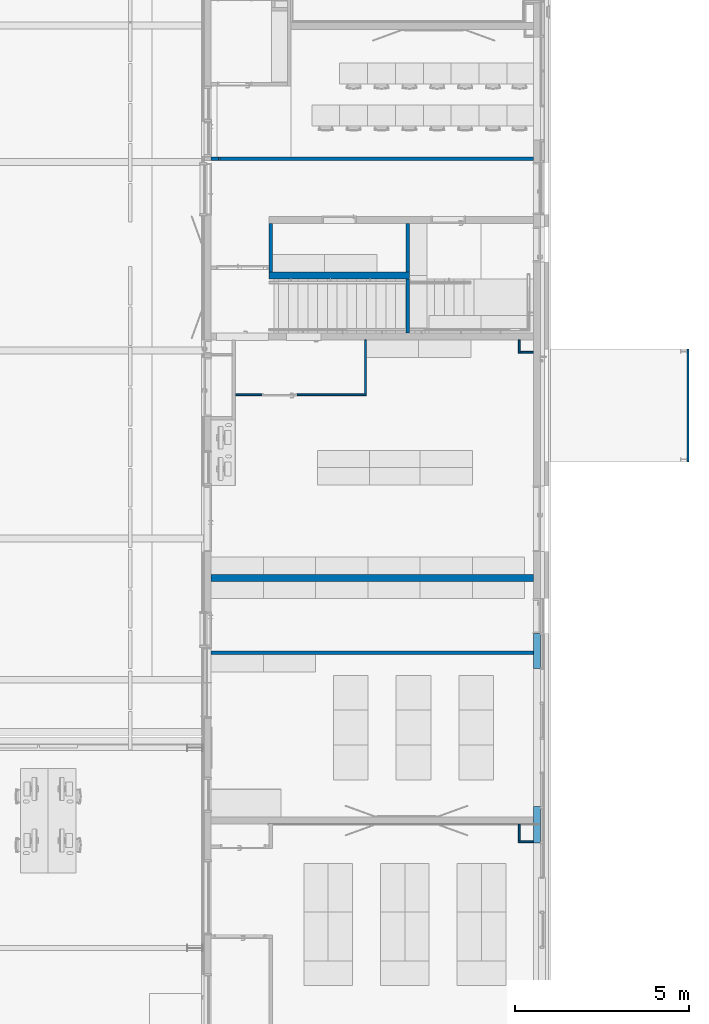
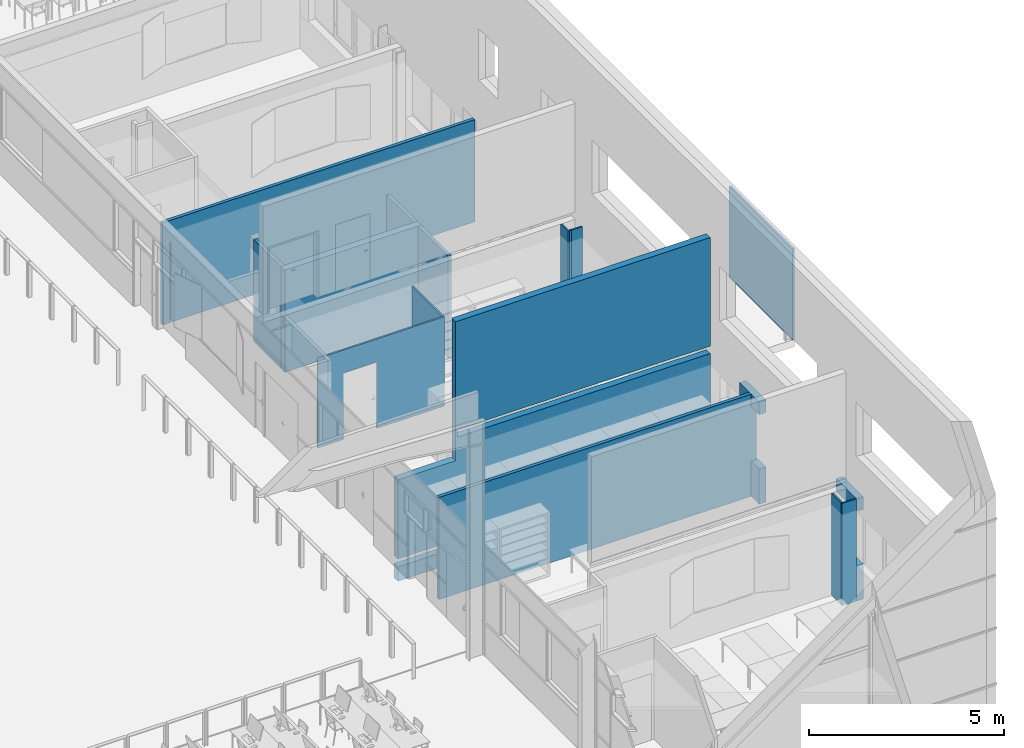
# One storey, part 63 of 137: 17 walls, 8 openings.
"""IFC2X3 building model written with IfcOpenShell, lengths in centimetres."""

from ifc_helpers import new_model, entity, si_unit, converted_unit, derived_unit, direction, frame, frame_2d, origin, origin_2d_with_axis, place, context, subcontext, project, spatial, polyline, rectangle, outline, extrude, clip, halfspace, bounded_halfspace, material, layer, layer_set, layer_usage, type_object, element, save


model = new_model("IFC2X3")

# Units and contexts
model_context = context("Model", 3, precision=0.001, world=origin(), true_north=direction((6.12303176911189e-17, 1.0)))
body_context = subcontext(model_context, "Body", "Model", "MODEL_VIEW")
ifc_project = project(units=[si_unit("LENGTHUNIT", "METRE", prefix="CENTI"), si_unit("AREAUNIT", "SQUARE_METRE"), si_unit("VOLUMEUNIT", "CUBIC_METRE"), converted_unit("PLANEANGLEUNIT", "DEGREE", entity("IfcRatioMeasure", 0.0174532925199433), si_unit("PLANEANGLEUNIT", "RADIAN"), dimensions=[0, 0, 0, 0, 0, 0, 0]), si_unit("MASSUNIT", "GRAM", prefix="KILO"), si_unit("TIMEUNIT", "SECOND"), si_unit("FREQUENCYUNIT", "HERTZ"), si_unit("THERMODYNAMICTEMPERATUREUNIT", "DEGREE_CELSIUS"), derived_unit("THERMALTRANSMITTANCEUNIT", [(si_unit("MASSUNIT", "GRAM", prefix="KILO"), 1), (si_unit("THERMODYNAMICTEMPERATUREUNIT", "KELVIN"), -1), (si_unit("TIMEUNIT", "SECOND"), -3)]), derived_unit("VOLUMETRICFLOWRATEUNIT", [(si_unit("LENGTHUNIT", "METRE"), 3), (si_unit("TIMEUNIT", "SECOND"), -1)]), si_unit("ELECTRICCURRENTUNIT", "AMPERE"), si_unit("ELECTRICVOLTAGEUNIT", "VOLT"), si_unit("POWERUNIT", "WATT"), si_unit("FORCEUNIT", "NEWTON", prefix="KILO"), si_unit("ILLUMINANCEUNIT", "LUX"), si_unit("LUMINOUSFLUXUNIT", "LUMEN"), si_unit("LUMINOUSINTENSITYUNIT", "CANDELA"), derived_unit("USERDEFINED", [(si_unit("MASSUNIT", "GRAM", prefix="KILO"), -1), (si_unit("LENGTHUNIT", "METRE"), -2), (si_unit("TIMEUNIT", "SECOND"), 3), (si_unit("LUMINOUSFLUXUNIT", "LUMEN"), 1)]), derived_unit("LINEARVELOCITYUNIT", [(si_unit("LENGTHUNIT", "METRE"), 1), (si_unit("TIMEUNIT", "SECOND"), -1)]), si_unit("PRESSUREUNIT", "PASCAL"), derived_unit("USERDEFINED", [(si_unit("LENGTHUNIT", "METRE"), -2), (si_unit("MASSUNIT", "GRAM", prefix="KILO"), 1), (si_unit("TIMEUNIT", "SECOND"), -2)])], contexts=[model_context])

# Site, building, storey
site_placement = place(None, frame((8.62739174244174, -249.285249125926, 0.0)))
site = spatial("IfcSite", under=ifc_project, at=site_placement, Name="Default", CompositionType="ELEMENT")
building_placement = place(site_placement, origin())
building = spatial("IfcBuilding", under=site, at=building_placement, CompositionType="ELEMENT")
storey_placement = place(building_placement, origin())
storey = spatial("IfcBuildingStorey", under=building, at=storey_placement, Name="RDC", CompositionType="ELEMENT", Elevation=-8.82465566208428e-11)

# Wall, opening
ifc_material_1 = material(Name="Plâtre")
ifc_layer_1 = layer(ifc_material_1, 10.0)
ifc_layer_set_1 = layer_set([ifc_layer_1], Name="Mur de base:PLA 10")
ifc_layer_usage_1 = layer_usage(ifc_layer_set_1, "AXIS2", "NEGATIVE", 5.0)
wall_type_1 = type_object("IfcWallType", Name="Mur de base:PLA 10", PredefinedType="STANDARD", material=ifc_layer_set_1)
wall_1_placement = place(storey_placement, frame((3053.90482779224, 5202.98020813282, 0.0)))
wall_1 = element("IfcWallStandardCase", 1, at=wall_1_placement, inside=storey, type_object=wall_type_1, material=ifc_layer_usage_1, Name="Mur de base:PLA 10", ObjectType="Mur de base:PLA 10", context=body_context, shape_type="Clipping", body=[
    clip(extrude(rectangle(XDim=925.000000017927, YDim=9.99999999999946, at=frame_2d((462.500000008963, -3.99680288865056e-14), x_axis=(-1.0, 0.0))), origin(), (0.0, 0.0, 1.0), 320.000000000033), bounded_halfspace(frame((0.0, -5.0, 320.0), z_axis=(0.0, 0.0, -1.0), x_axis=(0.0, 1.0, 0.0)), True, frame((0.0, -5.0, 320.0)), polyline([(0.0, 0.0), (925.0, 0.0), (925.0, 10.0), (2.06182448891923e-09, 10.0), (0.0, 0.0)]))),
])
opening_1_placement = place(wall_1_placement, origin())
element("IfcOpeningElement", 2, at=opening_1_placement, cuts=wall_1, Name="Mur de base:PLA 10", ObjectType="Opening", context=body_context, shape_type="SweptSolid", body=[
    extrude(rectangle(XDim=243.84, YDim=3.99999999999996, at=frame_2d((-1.4210854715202e-14, 0.0), x_axis=(1.0, 0.0))), frame((23.5000000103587, -5.0, 130.0), z_axis=(0.0, 1.0, 0.0), x_axis=(0.0, 0.0, -1.0)), (0.0, 0.0, 1.0), 9.99999999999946),
])

# Wall
ifc_layer_usage_2 = layer_usage(ifc_layer_set_1, "AXIS2", "NEGATIVE", 5.0)
wall_2_placement = place(storey_placement, frame((3618.90482771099, 4877.98020814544, 0.0), z_axis=(0.0, 0.0, 1.0), x_axis=(0.0, 1.0, 0.0)))
element("IfcWallStandardCase", 3, at=wall_2_placement, inside=storey, type_object=wall_type_1, material=ifc_layer_usage_2, Name="Mur de base:PLA 10", ObjectType="Mur de base:PLA 10", context=body_context, shape_type="Clipping", body=[
    clip(extrude(rectangle(XDim=140.0, YDim=10.0000000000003, at=frame_2d((70.0000000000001, 0.0), x_axis=(-1.0, 0.0))), origin(), (0.0, 0.0, 1.0), 320.000000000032), bounded_halfspace(frame((0.0, -5.0, 320.0), z_axis=(0.0, 0.0, -1.0), x_axis=(1.0, 0.0, 0.0)), True, frame((0.0, -5.0, 320.0)), polyline([(0.0, 0.0), (140.0, 0.0), (140.0, 10.0), (0.0, 10.0), (0.0, 0.0)]))),
])

# Wall, opening
ifc_layer_2 = layer(ifc_material_1, 5.0)
ifc_layer_set_2 = layer_set([ifc_layer_2], Name="Mur de base:PLA 5")
ifc_layer_usage_3 = layer_usage(ifc_layer_set_2, "AXIS2", "NEGATIVE", 2.5)
wall_type_2 = type_object("IfcWallType", Name="Mur de base:PLA 5", PredefinedType="STANDARD", material=ifc_layer_set_2)
wall_3_placement = place(storey_placement, frame((3123.9048277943, 4525.48020813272, 0.0)))
wall_3 = element("IfcWallStandardCase", 4, at=wall_3_placement, inside=storey, type_object=wall_type_2, material=ifc_layer_usage_3, Name="Mur de base:PLA 5", ObjectType="Mur de base:PLA 5", context=body_context, shape_type="SweptSolid", body=[
    extrude(rectangle(XDim=376.000000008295, YDim=5.0000000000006, at=frame_2d((188.000000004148, 0.0), x_axis=(-1.0, 0.0))), origin(), (0.0, 0.0, 1.0), 279.999999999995),
])
opening_2_placement = place(wall_3_placement, frame((176.0, 2.5, 0.0)))
element("IfcOpeningElement", 5, at=opening_2_placement, cuts=wall_3, Name="Simple(R)_bois_mu:93 x 204 cm:1", ObjectType="Opening", context=body_context, shape_type="SweptSolid", body=[
    extrude(rectangle(XDim=207.499999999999, YDim=99.9999999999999, at=frame_2d((103.749999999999, 50.0), x_axis=(1.0, 0.0))), frame((0.0, 0.0, 0.0), z_axis=(0.0, -1.0, 0.0), x_axis=(0.0, 0.0, 1.0)), (0.0, 0.0, 1.0), 5.0),
])

# Walls
ifc_layer_usage_4 = layer_usage(ifc_layer_set_2, "AXIS2", "NEGATIVE", 2.5)
wall_4_placement = place(storey_placement, frame((3497.40482780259, 4527.98020813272, 0.0), z_axis=(0.0, 0.0, 1.0), x_axis=(0.0, 1.0, 0.0)))
element("IfcWallStandardCase", 6, at=wall_4_placement, inside=storey, type_object=wall_type_2, material=ifc_layer_usage_4, Name="Mur de base:PLA 5", ObjectType="Mur de base:PLA 5", context=body_context, shape_type="SweptSolid", body=[
    extrude(rectangle(XDim=154.999999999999, YDim=4.99999999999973, at=frame_2d((77.4999999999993, -6.66133814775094e-15), x_axis=(-1.0, 0.0))), origin(), (0.0, 0.0, 1.0), 279.999999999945),
])
ifc_layer_usage_5 = layer_usage(ifc_layer_set_2, "AXIS2", "NEGATIVE", 2.5)
wall_5_placement = place(storey_placement, frame((3978.90482781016, 4647.77522290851, 0.0), z_axis=(0.0, 0.0, 1.0), x_axis=(-1.0, 0.0, 0.0)))
element("IfcWallStandardCase", 7, at=wall_5_placement, inside=storey, type_object=wall_type_2, material=ifc_layer_usage_5, Name="Mur de base:PLA 5", ObjectType="Mur de base:PLA 5", context=body_context, shape_type="Clipping", body=[
    clip(extrude(rectangle(XDim=32.5000000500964, YDim=5.0000000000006, at=frame_2d((16.2500000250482, 0.0), x_axis=(-1.0, 0.0))), origin(), (0.0, 0.0, 1.0), 320.000000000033), bounded_halfspace(frame((0.0, -2.49999999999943, 320.0), z_axis=(0.0, 0.0, -1.0), x_axis=(0.0, -1.0, 0.0)), True, frame((0.0, -2.49999999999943, 320.0)), polyline([(0.0, 0.0), (32.5000000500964, 0.0), (32.5000000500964, 5.0), (0.0, 5.0), (0.0, 0.0)]))),
])
ifc_layer_usage_6 = layer_usage(ifc_layer_set_2, "AXIS2", "NEGATIVE", 2.5)
wall_6_placement = place(storey_placement, frame((3978.90482781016, 3242.18519336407, 0.0), z_axis=(0.0, 0.0, 1.0), x_axis=(-1.0, 0.0, 0.0)))
element("IfcWallStandardCase", 8, at=wall_6_placement, inside=storey, type_object=wall_type_2, material=ifc_layer_usage_6, Name="Mur de base:PLA 5", ObjectType="Mur de base:PLA 5", context=body_context, shape_type="Clipping", body=[
    clip(extrude(rectangle(XDim=43.0000000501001, YDim=4.99999999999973, at=frame_2d((21.5000000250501, 0.0), x_axis=(-1.0, 0.0))), origin(), (0.0, 0.0, 1.0), 320.000000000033), bounded_halfspace(frame((0.0, -2.5000000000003, 320.0), z_axis=(0.0, 0.0, -1.0), x_axis=(0.0, -1.0, 0.0)), True, frame((0.0, -2.5000000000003, 320.0)), polyline([(0.0, 0.0), (38.0, 0.0), (43.0, 0.0), (43.0, 5.0), (0.0, 5.0), (0.0, 0.0)]))),
])
ifc_layer_usage_7 = layer_usage(ifc_layer_set_2, "AXIS2", "NEGATIVE", 2.5)
wall_7_placement = place(storey_placement, frame((3938.40482776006, 3244.68519336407, 0.0), z_axis=(0.0, 0.0, 1.0), x_axis=(0.0, 1.0, 0.0)))
element("IfcWallStandardCase", 9, at=wall_7_placement, inside=storey, type_object=wall_type_2, material=ifc_layer_usage_7, Name="Mur de base:PLA 5", ObjectType="Mur de base:PLA 5", context=body_context, shape_type="Clipping", body=[
    clip(extrude(rectangle(XDim=48.5000000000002, YDim=5.0000000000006, at=frame_2d((24.2500000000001, 0.0), x_axis=(-1.0, 0.0))), origin(), (0.0, 0.0, 1.0), 320.000000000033), bounded_halfspace(frame((0.0, -2.49999999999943, 320.0), z_axis=(0.0, 0.0, -1.0), x_axis=(1.0, 0.0, 0.0)), True, frame((0.0, -2.49999999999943, 320.0)), polyline([(0.0, 0.0), (48.5000000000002, 0.0), (48.5000000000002, 5.0), (0.0, 5.0), (0.0, 0.0)]))),
])
ifc_layer_usage_8 = layer_usage(ifc_layer_set_2, "AXIS2", "NEGATIVE", 2.5)
wall_8_placement = place(storey_placement, frame((3978.90482781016, 4647.77522290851, 0.0), z_axis=(0.0, 0.0, 1.0), x_axis=(-1.0, 0.0, 0.0)))
element("IfcWallStandardCase", 10, at=wall_8_placement, inside=storey, type_object=wall_type_2, material=ifc_layer_usage_8, Name="Mur de base:PLA 5", ObjectType="Mur de base:PLA 5", context=body_context, shape_type="Clipping", body=[
    clip(extrude(rectangle(XDim=38.0000000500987, YDim=5.0000000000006, at=frame_2d((19.0000000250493, 0.0), x_axis=(-1.0, 0.0))), origin(), (0.0, 0.0, 1.0), 320.000000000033), bounded_halfspace(frame((0.0, -2.49999999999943, 320.0), z_axis=(0.0, 0.0, -1.0), x_axis=(0.0, -1.0, 0.0)), True, frame((0.0, -2.49999999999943, 320.0)), polyline([(0.0, 0.0), (38.0, 0.0), (38.0, 5.0), (0.0, 5.0), (0.0, 0.0)]))),
])
ifc_layer_usage_9 = layer_usage(ifc_layer_set_2, "AXIS2", "NEGATIVE", 2.5)
wall_9_placement = place(storey_placement, frame((3938.40482776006, 4645.27522290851, 0.0), z_axis=(0.0, 0.0, 1.0), x_axis=(0.0, 1.0, 0.0)))
element("IfcWallStandardCase", 11, at=wall_9_placement, inside=storey, type_object=wall_type_2, material=ifc_layer_usage_9, Name="Mur de base:PLA 5", ObjectType="Mur de base:PLA 5", context=body_context, shape_type="Clipping", body=[
    clip(extrude(rectangle(XDim=37.7049852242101, YDim=5.0000000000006, at=frame_2d((18.8524926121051, 0.0), x_axis=(-1.0, 0.0))), origin(), (0.0, 0.0, 1.0), 320.000000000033), bounded_halfspace(frame((0.0, -2.49999999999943, 320.0), z_axis=(0.0, 0.0, -1.0), x_axis=(1.0, 0.0, 0.0)), True, frame((0.0, -2.49999999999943, 320.0)), polyline([(0.0, 0.0), (5.0, 0.0), (37.7049852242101, 0.0), (37.7049852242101, 5.0), (0.0, 5.0), (0.0, 0.0)]))),
])

# Wall, openings
ifc_material_2 = material(Name="Béton, coulé sur place, gris")
ifc_layer_3 = layer(ifc_material_2, 20.0)
ifc_layer_set_3 = layer_set([ifc_layer_3], Name="Mur de base:BET 20")
ifc_layer_usage_10 = layer_usage(ifc_layer_set_3, "AXIS2", "NEGATIVE", 10.0)
wall_type_3 = type_object("IfcWallType", Name="Mur de base:BET 20", PredefinedType="STANDARD", material=ifc_layer_set_3)
wall_10_placement = place(storey_placement, frame((3053.9048277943, 4000.18519336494, -70.0)))
wall_10 = element("IfcWallStandardCase", 12, at=wall_10_placement, inside=storey, type_object=wall_type_3, material=ifc_layer_usage_10, Name="Mur de base:BET 20", ObjectType="Mur de base:BET 20", context=body_context, shape_type="Clipping", body=[
    clip(extrude(rectangle(XDim=925.000000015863, YDim=20.0000000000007, at=frame_2d((462.500000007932, 4.08562073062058e-14), x_axis=(-1.0, 0.0))), origin(), (0.0, 0.0, 1.0), 753.000000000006), halfspace(frame((171.0, 0.0, 753.0), z_axis=(-0.923265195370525, 0.0, 0.384163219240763), x_axis=(0.0, 1.0, 0.0)), False)),
])
opening_3_placement = place(storey_placement, frame((3053.9048277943, 4000.18519336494, -70.0)))
element("IfcOpeningElement", 13, at=opening_3_placement, cuts=wall_10, Name="Mur de base:BET 20:1", ObjectType="Opening", context=body_context, shape_type="SweptSolid", body=[
    extrude(rectangle(XDim=749.000000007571, YDim=19.9999999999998, at=frame_2d((0.0, -4.33431068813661e-13), x_axis=(1.0, 0.0))), frame((550.500000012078, 0.0, 390.0)), (0.0, 0.0, 1.0), 23.0),
])
opening_4_placement = place(storey_placement, frame((3053.9048277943, 4000.18519336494, -70.0)))
element("IfcOpeningElement", 14, at=opening_4_placement, cuts=wall_10, Name="Mur de base:BET 20:2", ObjectType="Opening", context=body_context, shape_type="SweptSolid", body=[
    extrude(rectangle(XDim=925.000000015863, YDim=19.9999999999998, at=frame_2d((-1.98951966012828e-13, 0.0), x_axis=(1.0, 0.0))), frame((462.500000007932, 0.0, 45.0)), (0.0, 0.0, 1.0), 25.0),
])
opening_5_placement = place(wall_10_placement, origin())
element("IfcOpeningElement", 15, at=opening_5_placement, cuts=wall_10, Name="Mur de base:BET 20", ObjectType="Opening", context=body_context, shape_type="SweptSolid", body=[
    extrude(outline(polyline([(-290.924754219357, -55.7036667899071), (180.229148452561, -55.7036667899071), (110.695605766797, 111.407333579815), (-290.924754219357, -55.7036667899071)])), frame((110.666666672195, 10.0, 463.0), z_axis=(0.0, -1.0, 0.0), x_axis=(-0.384163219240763, 0.0, -0.923265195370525)), (0.0, 0.0, 1.0), 20.0),
])

# Wall
ifc_layer_usage_11 = layer_usage(ifc_layer_set_3, "AXIS2", "NEGATIVE", 10.0)
wall_11_placement = place(storey_placement, frame((3623.90482771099, 4867.98020814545, 0.0), z_axis=(0.0, 0.0, 1.0), x_axis=(-1.0, 0.0, 0.0)))
element("IfcWallStandardCase", 16, at=wall_11_placement, inside=storey, type_object=wall_type_3, material=ifc_layer_usage_11, Name="Mur de base:BET 20", ObjectType="Mur de base:BET 20", context=body_context, shape_type="Clipping", body=[
    clip(extrude(rectangle(XDim=404.13533745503, YDim=20.0000000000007, at=frame_2d((202.067668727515, 1.15463194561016e-14), x_axis=(-1.0, 0.0))), origin(), (0.0, 0.0, 1.0), 320.000000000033), bounded_halfspace(frame((0.0, -10.0, 320.0), z_axis=(0.0, 0.0, -1.0), x_axis=(0.0, -1.0, 0.0)), True, frame((0.0, -10.0, 320.0)), polyline([(0.0, 0.0), (404.13533745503, 0.0), (404.13533745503, 20.0), (0.0, 20.0), (0.0, 0.0)]))),
])

# Wall, opening
ifc_layer_usage_12 = layer_usage(ifc_layer_set_3, "AXIS2", "NEGATIVE", 10.0)
wall_12_placement = place(storey_placement, frame((3988.90482781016, 3239.18519336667, 0.0), z_axis=(0.0, 0.0, 1.0), x_axis=(0.0, 1.0, 0.0)))
wall_12 = element("IfcWallStandardCase", 17, at=wall_12_placement, inside=storey, type_object=wall_type_3, material=ifc_layer_usage_12, Name="Mur de base:BET 20", ObjectType="Mur de base:BET 20", context=body_context, shape_type="SweptSolid", body=[
    extrude(rectangle(XDim=105.0, YDim=20.0000000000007, at=frame_2d((52.4999999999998, 0.0), x_axis=(-1.0, 0.0))), origin(), (0.0, 0.0, 1.0), 320.000000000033),
])
opening_6_placement = place(wall_12_placement, origin())
element("IfcOpeningElement", 18, at=opening_6_placement, cuts=wall_12, Name="Mur de base:BET 20", ObjectType="Opening", context=body_context, shape_type="SweptSolid", body=[
    extrude(rectangle(XDim=170.000000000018, YDim=1200.0, at=frame_2d((4.54747350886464e-13, 0.0), x_axis=(0.0, 1.0))), frame((100.0, -25.2399999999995, 195.0), z_axis=(0.0, 1.0, 0.0), x_axis=(-1.0, 0.0, 0.0)), (0.0, 0.0, 1.0), 50.4799999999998),
])

# Wall, openings
ifc_layer_usage_13 = layer_usage(ifc_layer_set_3, "AXIS2", "NEGATIVE", 10.0)
wall_13_placement = place(storey_placement, frame((3988.90482781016, 3739.18519336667, 0.0), z_axis=(0.0, 0.0, 1.0), x_axis=(0.0, 1.0, 0.0)))
wall_13 = element("IfcWallStandardCase", 19, at=wall_13_placement, inside=storey, type_object=wall_type_3, material=ifc_layer_usage_13, Name="Mur de base:BET 20", ObjectType="Mur de base:BET 20", context=body_context, shape_type="SweptSolid", body=[
    extrude(rectangle(XDim=101.000000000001, YDim=20.0000000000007, at=frame_2d((50.5000000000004, 0.0), x_axis=(-1.0, 0.0))), origin(), (0.0, 0.0, 1.0), 320.000000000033),
])
opening_7_placement = place(wall_13_placement, origin())
element("IfcOpeningElement", 20, at=opening_7_placement, cuts=wall_13, Name="Mur de base:BET 20", ObjectType="Opening", context=body_context, shape_type="SweptSolid", body=[
    extrude(rectangle(XDim=170.000000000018, YDim=1200.0, at=frame_2d((4.54747350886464e-13, 0.0), x_axis=(0.0, 1.0))), frame((-400.0, -25.2399999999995, 195.0), z_axis=(0.0, 1.0, 0.0), x_axis=(-1.0, 0.0, 0.0)), (0.0, 0.0, 1.0), 50.4799999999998),
])
opening_8_placement = place(wall_13_placement, origin())
element("IfcOpeningElement", 21, at=opening_8_placement, cuts=wall_13, Name="Mur de base:BET 20", ObjectType="Opening", context=body_context, shape_type="SweptSolid", body=[
    extrude(rectangle(XDim=207.499999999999, YDim=99.9999999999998, at=origin_2d_with_axis()), frame((151.0, -162.399999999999, 103.749999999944), z_axis=(0.0, 1.0, 0.0), x_axis=(0.0, 0.0, 1.0)), (0.0, 0.0, 1.0), 304.8),
])

# Walls
ifc_material_3 = material(Name="Stuc")
ifc_layer_4 = layer(ifc_material_3, 10.0)
ifc_layer_set_4 = layer_set([ifc_layer_4], Name="Mur de base:CIM 10")
ifc_layer_usage_14 = layer_usage(ifc_layer_set_4, "AXIS2", "NEGATIVE", 5.0)
wall_type_4 = type_object("IfcWallType", Name="Mur de base:CIM 10", PredefinedType="STANDARD", material=ifc_layer_set_4)
wall_14_placement = place(storey_placement, frame((3053.90482779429, 3785.18519336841, 0.0)))
element("IfcWallStandardCase", 22, at=wall_14_placement, inside=storey, type_object=wall_type_4, material=ifc_layer_usage_14, Name="Mur de base:CIM 10", ObjectType="Mur de base:CIM 10", context=body_context, shape_type="Clipping", body=[
    clip(extrude(rectangle(XDim=940.500000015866, YDim=10.0000000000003, at=frame_2d((470.250000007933, 6.30606677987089e-14), x_axis=(-1.0, 0.0))), origin(), (0.0, 0.0, 1.0), 320.000000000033), bounded_halfspace(frame((0.0, -5.0, 320.0), z_axis=(0.0, 0.0, -1.0), x_axis=(0.0, 1.0, 0.0)), True, frame((0.0, -5.0, 320.0)), polyline([(0.0, 0.0), (925.0, 0.0), (925.0, 10.0), (0.0, 10.0), (0.0, 0.0)]))),
])
ifc_layer_usage_15 = layer_usage(ifc_layer_set_4, "AXIS2", "NEGATIVE", 5.0)
wall_15_placement = place(storey_placement, frame((3224.90482780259, 4877.98020814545, 0.0), z_axis=(0.0, 0.0, 1.0), x_axis=(0.0, 1.0, 0.0)))
element("IfcWallStandardCase", 23, at=wall_15_placement, inside=storey, type_object=wall_type_4, material=ifc_layer_usage_15, Name="Mur de base:CIM 10", ObjectType="Mur de base:CIM 10", context=body_context, shape_type="Clipping", body=[
    clip(extrude(rectangle(XDim=140.0, YDim=10.0000000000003, at=frame_2d((70.0000000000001, 0.0), x_axis=(-1.0, 0.0))), origin(), (0.0, 0.0, 1.0), 320.000000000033), bounded_halfspace(frame((0.0, -5.0, 320.0), z_axis=(0.0, 0.0, -1.0), x_axis=(1.0, 0.0, 0.0)), True, frame((0.0, -5.0, 320.0)), polyline([(0.0, 0.0), (140.0, 0.0), (140.0, 10.0), (17.9991040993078, 10.0), (7.9991040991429, 10.0), (0.0, 10.0), (0.0, 0.0)]))),
])
ifc_layer_usage_16 = layer_usage(ifc_layer_set_4, "AXIS2", "NEGATIVE", 5.0)
wall_16_placement = place(storey_placement, frame((3618.90482771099, 4857.98020814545, 0.0), z_axis=(0.0, 0.0, 1.0), x_axis=(0.0, -1.0, 0.0)))
element("IfcWallStandardCase", 24, at=wall_16_placement, inside=storey, type_object=wall_type_4, material=ifc_layer_usage_16, Name="Mur de base:CIM 10", ObjectType="Mur de base:CIM 10", context=body_context, shape_type="Clipping", body=[
    clip(extrude(rectangle(XDim=155.000000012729, YDim=10.0000000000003, at=frame_2d((77.5000000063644, -9.01501095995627e-14), x_axis=(-1.0, 0.0))), origin(), (0.0, 0.0, 1.0), 320.000000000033), bounded_halfspace(frame((0.0, -5.0, 320.0), z_axis=(0.0, 0.0, -1.0), x_axis=(-1.0, 0.0, 0.0)), True, frame((0.0, -5.0, 320.0)), polyline([(0.0, 0.0), (155.0, 0.0), (155.0, 10.0), (0.0, 10.0), (0.0, 0.0)]))),
])
ifc_material_4 = material(Name="Tôle/Doublage(PROJET)")
ifc_layer_5 = layer(ifc_material_4, 6.0)
ifc_layer_set_5 = layer_set([ifc_layer_5], Name="Mur de base:MET PROJET 6")
ifc_layer_usage_17 = layer_usage(ifc_layer_set_5, "AXIS2", "NEGATIVE", 3.0)
wall_type_5 = type_object("IfcWallType", Name="Mur de base:MET PROJET 6", PredefinedType="STANDARD", material=ifc_layer_set_5)
wall_17_placement = place(storey_placement, frame((4422.90482776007, 4657.2752229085, 0.0), z_axis=(0.0, 0.0, 1.0), x_axis=(0.0, -1.0, 0.0)))
element("IfcWallStandardCase", 25, at=wall_17_placement, inside=storey, type_object=wall_type_5, material=ifc_layer_usage_17, Name="Mur de base:MET PROJET 6", ObjectType="Mur de base:MET PROJET 6", context=body_context, shape_type="SweptSolid", body=[
    extrude(rectangle(XDim=324.000029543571, YDim=6.00000000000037, at=frame_2d((162.000014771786, 4.41868763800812e-14), x_axis=(-1.0, 0.0))), origin(), (0.0, 0.0, 1.0), 285.00000000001),
])

save(model, "model.ifc")
